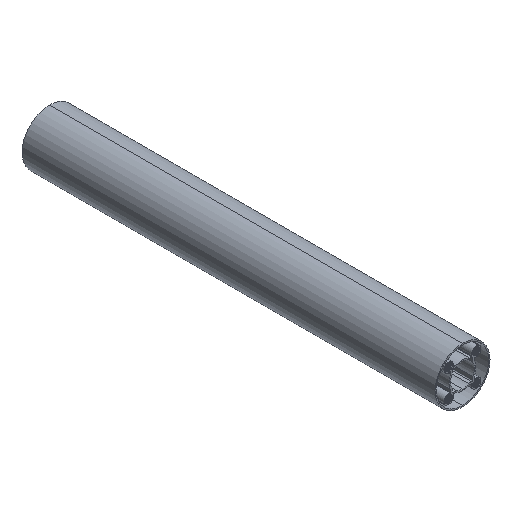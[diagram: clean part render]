
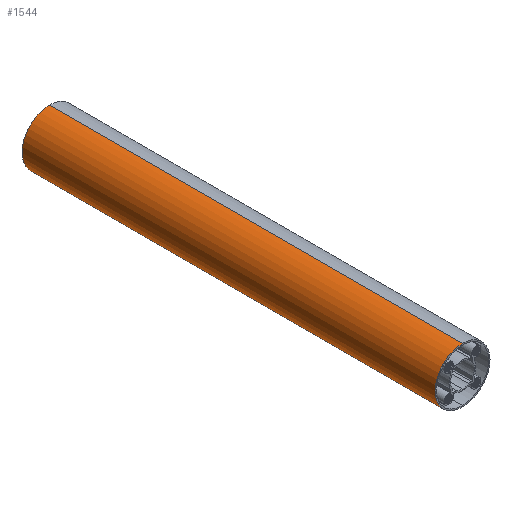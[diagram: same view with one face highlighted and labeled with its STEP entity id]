
A CAD part, isometric view. The second image highlights one B-rep face of the part: STEP entity #1544.
In plain terms, the highlighted cylindrical face has radius 15.975 mm (diameter 31.95 mm), a partial arc.
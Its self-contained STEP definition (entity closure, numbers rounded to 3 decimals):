
#599 = DIRECTION ( 'NONE',  ( 0., 0., 1. ) ) ;
#1544 = ADVANCED_FACE ( 'NONE', ( #39405 ), #38821, .T. ) ;
#1797 = ORIENTED_EDGE ( 'NONE', *, *, #24897, .T. ) ;
#1831 = EDGE_CURVE ( 'NONE', #33492, #42265, #30171, .T. ) ;
#4534 = AXIS2_PLACEMENT_3D ( 'NONE', #36048, #51294, #16778 ) ;
#5708 = DIRECTION ( 'NONE',  ( 0., 0., 1. ) ) ;
#6044 = DIRECTION ( 'NONE',  ( 0., -1., 0. ) ) ;
#6935 = EDGE_CURVE ( 'NONE', #26355, #12366, #49763, .T. ) ;
#7032 = CIRCLE ( 'NONE', #31295, 15.975 ) ;
#7190 = EDGE_LOOP ( 'NONE', ( #29389, #7405, #39813, #1797 ) ) ;
#7284 = DIRECTION ( 'NONE',  ( 0., -1., 0. ) ) ;
#7405 = ORIENTED_EDGE ( 'NONE', *, *, #45958, .F. ) ;
#7458 = CARTESIAN_POINT ( 'NONE',  ( 0., 240., 15.975 ) ) ;
#12306 = CARTESIAN_POINT ( 'NONE',  ( 0., 240., -15.975 ) ) ;
#12366 = VERTEX_POINT ( 'NONE', #38350 ) ;
#12743 = CARTESIAN_POINT ( 'NONE',  ( 0., 0., 0. ) ) ;
#14193 = CARTESIAN_POINT ( 'NONE',  ( 0., 240., 0. ) ) ;
#14338 = CIRCLE ( 'NONE', #24256, 15.975 ) ;
#16778 = DIRECTION ( 'NONE',  ( 0., 0., -1. ) ) ;
#21340 = VECTOR ( 'NONE', #7284, 1000. ) ;
#23948 = DIRECTION ( 'NONE',  ( 0., 1., 0. ) ) ;
#24256 = AXIS2_PLACEMENT_3D ( 'NONE', #14193, #37766, #5708 ) ;
#24897 = EDGE_CURVE ( 'NONE', #42265, #12366, #7032, .T. ) ;
#26355 = VERTEX_POINT ( 'NONE', #27738 ) ;
#27738 = CARTESIAN_POINT ( 'NONE',  ( 0., 240., 15.975 ) ) ;
#29389 = ORIENTED_EDGE ( 'NONE', *, *, #6935, .F. ) ;
#29847 = CARTESIAN_POINT ( 'NONE',  ( 0., 240., -15.975 ) ) ;
#30171 = LINE ( 'NONE', #29847, #51195 ) ;
#31295 = AXIS2_PLACEMENT_3D ( 'NONE', #12743, #23948, #599 ) ;
#33492 = VERTEX_POINT ( 'NONE', #12306 ) ;
#36048 = CARTESIAN_POINT ( 'NONE',  ( 0., 240., 0. ) ) ;
#36058 = CARTESIAN_POINT ( 'NONE',  ( 0., 0., -15.975 ) ) ;
#37766 = DIRECTION ( 'NONE',  ( 0., 1., 0. ) ) ;
#38350 = CARTESIAN_POINT ( 'NONE',  ( 0., 0., 15.975 ) ) ;
#38821 = CYLINDRICAL_SURFACE ( 'NONE', #4534, 15.975 ) ;
#39405 = FACE_OUTER_BOUND ( 'NONE', #7190, .T. ) ;
#39813 = ORIENTED_EDGE ( 'NONE', *, *, #1831, .T. ) ;
#42265 = VERTEX_POINT ( 'NONE', #36058 ) ;
#45958 = EDGE_CURVE ( 'NONE', #33492, #26355, #14338, .T. ) ;
#49763 = LINE ( 'NONE', #7458, #21340 ) ;
#51195 = VECTOR ( 'NONE', #6044, 1000. ) ;
#51294 = DIRECTION ( 'NONE',  ( 0., -1., 0. ) ) ;
